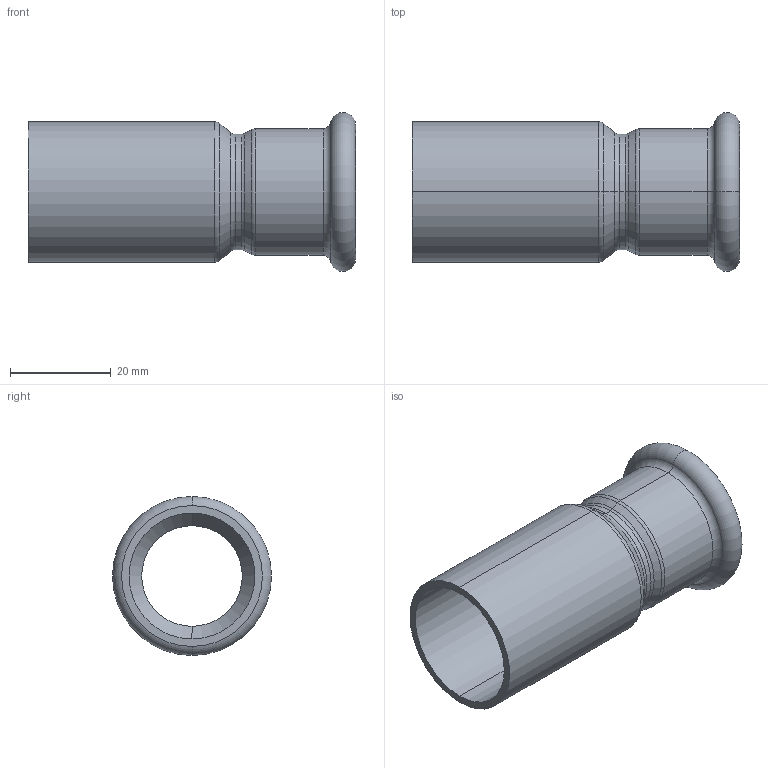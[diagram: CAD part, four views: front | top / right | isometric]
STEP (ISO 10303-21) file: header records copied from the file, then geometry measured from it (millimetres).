
FILE_DESCRIPTION (( 'STEP AP214' ), '1' );
FILE_NAME ('R28220B.STEP', '2025-08-18T00:17:31', ( '' ), ( '' ), 'SwSTEP 2.0', 'SolidWorks 2020', '' );
FILE_SCHEMA (( 'AUTOMOTIVE_DESIGN' ));
Length unit declared in the file: millimetre
Products named in the file (1): R28220B
Bounding box: 65 x 31.6 x 31.6 mm (x, y, z)
Volume: 8787.4 mm3; surface area: 11484 mm2
Topology: 1 solids, 1 shells, 43 faces, 86 edges, 46 vertices
Faces by surface type: torus 16, cylinder 14, cone 10, plane 3
Entity records: 1192 total; most frequent: DIRECTION 236, CARTESIAN_POINT 176, ORIENTED_EDGE 172, AXIS2_PLACEMENT_3D 106, EDGE_CURVE 86, CIRCLE 62, EDGE_LOOP 46, VERTEX_POINT 46
